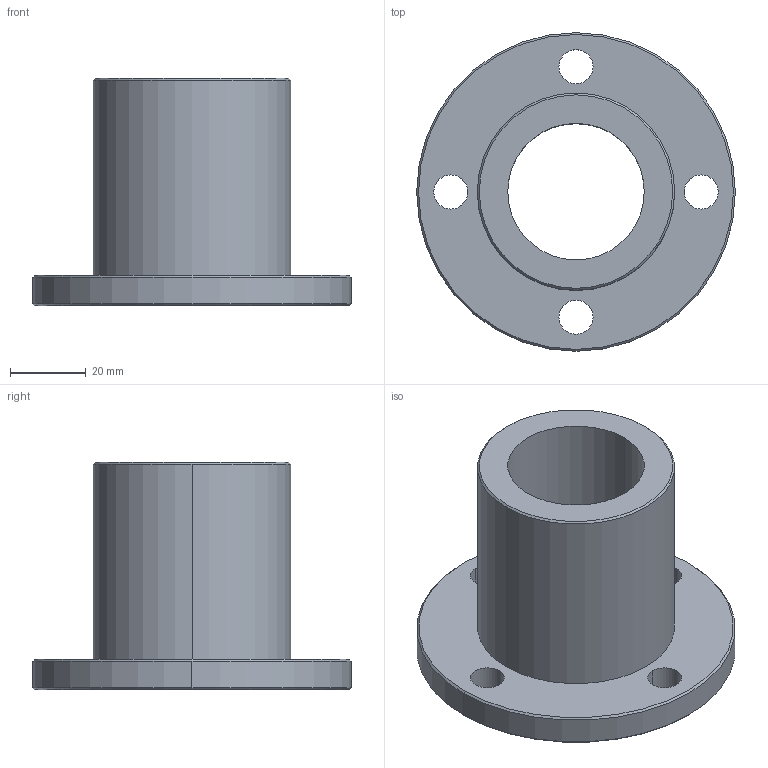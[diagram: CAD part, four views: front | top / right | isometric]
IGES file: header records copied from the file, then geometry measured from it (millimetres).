
Start section: 3D InterOp IGES (Version 21 0 1), Spatial Corp. Copyright (c) 1999-2007.
Global section: file name: TMFON-36R.igs; native system: Spatial Corp.; preprocessor: 3D InterOp GENERIC/IGES 3.0; author: Noname; organization: Noname; date: 20220208.143505; units: millimetre
Bounding box: 84 x 84 x 60 mm (x, y, z)
Surface area: 26632.1 mm2 (no closed solid volume)
Topology: 0 solids, 0 shells, 23 faces, 108 edges, 108 vertices
Faces by surface type: revolution 20, extrusion 3
